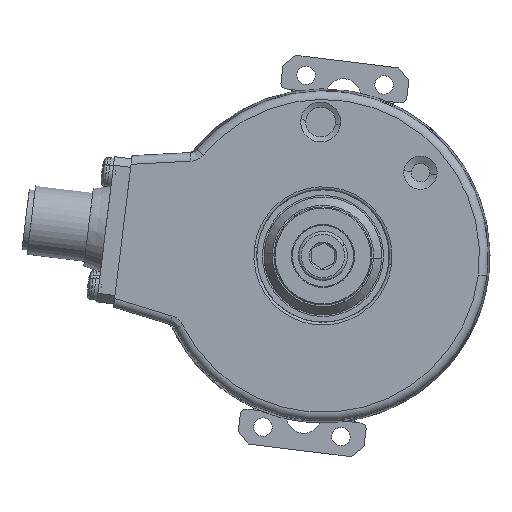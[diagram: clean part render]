
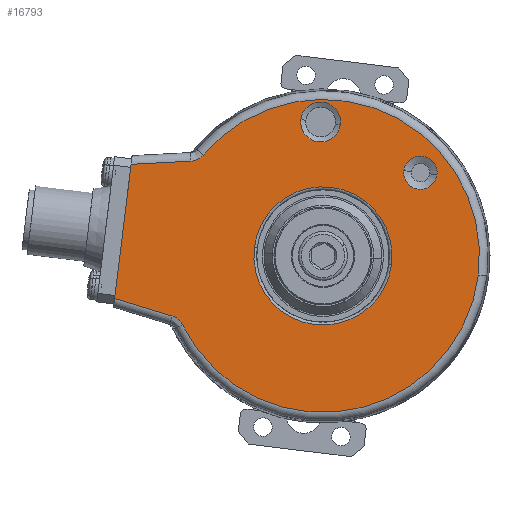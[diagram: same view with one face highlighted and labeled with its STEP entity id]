
A CAD part, left-side view. The second image highlights one B-rep face of the part: STEP entity #16793.
In plain terms, the highlighted planar face has unit normal (-1, 0, 0).
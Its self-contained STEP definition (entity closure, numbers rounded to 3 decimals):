
#978 = EDGE_LOOP ( 'NONE', ( #26322, #26323 ) ) ;
#979 = EDGE_LOOP ( 'NONE', ( #26320, #26321 ) ) ;
#1039 = EDGE_LOOP ( 'NONE', ( #26325, #26324 ) ) ;
#3807 = CARTESIAN_POINT ( 'NONE',  ( -19., -16.919, 14.45 ) ) ;
#3808 = DIRECTION ( 'NONE',  ( 1., 0., 0. ) ) ;
#3809 = DIRECTION ( 'NONE',  ( 0., -0.993, -0.122 ) ) ;
#3822 = CARTESIAN_POINT ( 'NONE',  ( -19., 0.406, 23.246 ) ) ;
#3823 = DIRECTION ( 'NONE',  ( 1., 0., 0. ) ) ;
#3824 = DIRECTION ( 'NONE',  ( 0., -0.993, -0.122 ) ) ;
#4479 = CIRCLE ( 'NONE', #35538, 2.899 ) ;
#4481 = CIRCLE ( 'NONE', #35539, 3.466 ) ;
#4482 = CIRCLE ( 'NONE', #35527, 27.173 ) ;
#4558 = CIRCLE ( 'NONE', #35440, 27.173 ) ;
#4599 = CIRCLE ( 'NONE', #28929, 12. ) ;
#4634 = CIRCLE ( 'NONE', #28985, 12. ) ;
#4887 = CIRCLE ( 'NONE', #32681, 3.466 ) ;
#4889 = CIRCLE ( 'NONE', #19913, 2.899 ) ;
#6196 = PLANE ( 'NONE',  #29726 ) ;
#6197 = CARTESIAN_POINT ( 'NONE',  ( -19., 0., 0. ) ) ;
#6198 = DIRECTION ( 'NONE',  ( 1., 0., 0. ) ) ;
#6199 = DIRECTION ( 'NONE',  ( 0., -0.993, -0.122 ) ) ;
#6343 = VERTEX_POINT ( 'NONE', #7092 ) ;
#6407 = VERTEX_POINT ( 'NONE', #7121 ) ;
#6458 = VERTEX_POINT ( 'NONE', #7172 ) ;
#6477 = VERTEX_POINT ( 'NONE', #7191 ) ;
#6505 = VERTEX_POINT ( 'NONE', #7219 ) ;
#6521 = VERTEX_POINT ( 'NONE', #7234 ) ;
#7092 = CARTESIAN_POINT ( 'NONE',  ( -19., -19.796, 14.097 ) ) ;
#7121 = CARTESIAN_POINT ( 'NONE',  ( -19., -14.042, 14.804 ) ) ;
#7172 = CARTESIAN_POINT ( 'NONE',  ( -19., 22.914, 16.45 ) ) ;
#7191 = CARTESIAN_POINT ( 'NONE',  ( -19., -3.034, 22.824 ) ) ;
#7219 = CARTESIAN_POINT ( 'NONE',  ( -19., 33.31, 15.905 ) ) ;
#7234 = CARTESIAN_POINT ( 'NONE',  ( -19., 36.168, -7.374 ) ) ;
#9978 = CARTESIAN_POINT ( 'NONE',  ( -19., -11.911, -1.462 ) ) ;
#10109 = CARTESIAN_POINT ( 'NONE',  ( -19., 11.911, 1.462 ) ) ;
#10122 = CARTESIAN_POINT ( 'NONE',  ( -19., 20.777, 17.512 ) ) ;
#10128 = CARTESIAN_POINT ( 'NONE',  ( -19., -26.97, -3.312 ) ) ;
#11537 = CARTESIAN_POINT ( 'NONE',  ( -19., 26.213, -10.418 ) ) ;
#11559 = CARTESIAN_POINT ( 'NONE',  ( -19., 3.846, 23.669 ) ) ;
#11639 = CARTESIAN_POINT ( 'NONE',  ( -19., 24.396, -11.966 ) ) ;
#16793 = ADVANCED_FACE ( 'NONE', ( #29722, #29729, #29732, #29735 ), #6196, .F. ) ;
#19913 = AXIS2_PLACEMENT_3D ( 'NONE', #3807, #3808, #3809 ) ;
#20214 = EDGE_LOOP ( 'NONE', ( #26319, #26317, #26318, #26316, #26315, #26314, #26313 ) ) ;
#21575 = VERTEX_POINT ( 'NONE', #11537 ) ;
#21610 = VERTEX_POINT ( 'NONE', #11559 ) ;
#21725 = VERTEX_POINT ( 'NONE', #11639 ) ;
#26313 = ORIENTED_EDGE ( 'NONE', *, *, #34878, .T. ) ;
#26314 = ORIENTED_EDGE ( 'NONE', *, *, #34986, .T. ) ;
#26315 = ORIENTED_EDGE ( 'NONE', *, *, #35042, .F. ) ;
#26316 = ORIENTED_EDGE ( 'NONE', *, *, #35044, .T. ) ;
#26317 = ORIENTED_EDGE ( 'NONE', *, *, #34992, .T. ) ;
#26318 = ORIENTED_EDGE ( 'NONE', *, *, #34988, .F. ) ;
#26319 = ORIENTED_EDGE ( 'NONE', *, *, #34815, .F. ) ;
#26320 = ORIENTED_EDGE ( 'NONE', *, *, #34748, .T. ) ;
#26321 = ORIENTED_EDGE ( 'NONE', *, *, #34817, .T. ) ;
#26322 = ORIENTED_EDGE ( 'NONE', *, *, #34242, .T. ) ;
#26323 = ORIENTED_EDGE ( 'NONE', *, *, #34989, .T. ) ;
#26324 = ORIENTED_EDGE ( 'NONE', *, *, #34991, .T. ) ;
#26325 = ORIENTED_EDGE ( 'NONE', *, *, #34237, .T. ) ;
#26965 = CARTESIAN_POINT ( 'NONE',  ( -19., 0., 0. ) ) ;
#26966 = DIRECTION ( 'NONE',  ( 1., 0., 0. ) ) ;
#26967 = DIRECTION ( 'NONE',  ( 0., -0.993, -0.122 ) ) ;
#27187 = CARTESIAN_POINT ( 'NONE',  ( -19., 22.914, 16.45 ) ) ;
#27188 = CARTESIAN_POINT ( 'NONE',  ( -19., 22.708, 16.461 ) ) ;
#27189 = CARTESIAN_POINT ( 'NONE',  ( -19., 22.503, 16.493 ) ) ;
#27190 = CARTESIAN_POINT ( 'NONE',  ( -19., 22.108, 16.597 ) ) ;
#27191 = CARTESIAN_POINT ( 'NONE',  ( -19., 21.917, 16.669 ) ) ;
#27192 = CARTESIAN_POINT ( 'NONE',  ( -19., 21.552, 16.851 ) ) ;
#27193 = CARTESIAN_POINT ( 'NONE',  ( -19., 21.376, 16.962 ) ) ;
#27194 = CARTESIAN_POINT ( 'NONE',  ( -19., 21.056, 17.213 ) ) ;
#27195 = CARTESIAN_POINT ( 'NONE',  ( -19., 20.91, 17.355 ) ) ;
#27196 = CARTESIAN_POINT ( 'NONE',  ( -19., 20.777, 17.512 ) ) ;
#27200 = CARTESIAN_POINT ( 'NONE',  ( -19., 0., 0. ) ) ;
#27201 = DIRECTION ( 'NONE',  ( 1., 0., 0. ) ) ;
#27202 = DIRECTION ( 'NONE',  ( 0., -0.993, -0.122 ) ) ;
#27400 = CARTESIAN_POINT ( 'NONE',  ( -19., 0., 0. ) ) ;
#27407 = DIRECTION ( 'NONE',  ( -1., 0., 0. ) ) ;
#27408 = DIRECTION ( 'NONE',  ( 0., -0.993, -0.122 ) ) ;
#27822 = CARTESIAN_POINT ( 'NONE',  ( -19., 0., 0. ) ) ;
#27823 = DIRECTION ( 'NONE',  ( -1., 0., 0. ) ) ;
#27824 = DIRECTION ( 'NONE',  ( 0., -0.993, -0.122 ) ) ;
#27825 = CARTESIAN_POINT ( 'NONE',  ( -19., 0.406, 23.246 ) ) ;
#27829 = LINE ( 'NONE', #27830, #35542 ) ;
#27830 = CARTESIAN_POINT ( 'NONE',  ( -19., 36.354, -8.886 ) ) ;
#27831 = DIRECTION ( 'NONE',  ( 0., -0.122, 0.993 ) ) ;
#27832 = DIRECTION ( 'NONE',  ( 1., 0., 0. ) ) ;
#27833 = DIRECTION ( 'NONE',  ( 0., -0.993, -0.122 ) ) ;
#27837 = CARTESIAN_POINT ( 'NONE',  ( -19., -16.919, 14.45 ) ) ;
#27838 = DIRECTION ( 'NONE',  ( 1., 0., 0. ) ) ;
#27839 = DIRECTION ( 'NONE',  ( 0., -0.993, -0.122 ) ) ;
#27841 = LINE ( 'NONE', #27842, #35546 ) ;
#27842 = CARTESIAN_POINT ( 'NONE',  ( -19., 33.046, 15.919 ) ) ;
#27843 = DIRECTION ( 'NONE',  ( 0., 0.999, -0.052 ) ) ;
#28170 = VERTEX_POINT ( 'NONE', #9978 ) ;
#28348 = VERTEX_POINT ( 'NONE', #10109 ) ;
#28363 = VERTEX_POINT ( 'NONE', #10122 ) ;
#28370 = VERTEX_POINT ( 'NONE', #10128 ) ;
#28929 = AXIS2_PLACEMENT_3D ( 'NONE', #27200, #27201, #27202 ) ;
#28985 = AXIS2_PLACEMENT_3D ( 'NONE', #26965, #26966, #26967 ) ;
#29722 = FACE_BOUND ( 'NONE', #1039, .T. ) ;
#29726 = AXIS2_PLACEMENT_3D ( 'NONE', #6197, #6198, #6199 ) ;
#29729 = FACE_BOUND ( 'NONE', #978, .T. ) ;
#29732 = FACE_BOUND ( 'NONE', #979, .T. ) ;
#29735 = FACE_OUTER_BOUND ( 'NONE', #20214, .T. ) ;
#30533 = B_SPLINE_CURVE_WITH_KNOTS ( 'NONE', 3,
 ( #31033, #31039, #31040, #31041, #31042, #31043, #31045, #31046, #31048, #31049 ),
 .UNSPECIFIED., .F., .F.,
 ( 4, 2, 2, 2, 4 ),
 ( 0., 0.001, 0.001, 0.002, 0.002 ),
 .UNSPECIFIED. ) ;
#30593 = B_SPLINE_CURVE_WITH_KNOTS ( 'NONE', 3,
 ( #27187, #27188, #27189, #27190, #27191, #27192, #27193, #27194, #27195, #27196 ),
 .UNSPECIFIED., .F., .F.,
 ( 4, 2, 2, 2, 4 ),
 ( 0., 0.001, 0.001, 0.002, 0.002 ),
 .UNSPECIFIED. ) ;
#31033 = CARTESIAN_POINT ( 'NONE',  ( -19., 24.396, -11.966 ) ) ;
#31039 = CARTESIAN_POINT ( 'NONE',  ( -19., 24.487, -11.781 ) ) ;
#31040 = CARTESIAN_POINT ( 'NONE',  ( -19., 24.597, -11.605 ) ) ;
#31041 = CARTESIAN_POINT ( 'NONE',  ( -19., 24.848, -11.282 ) ) ;
#31042 = CARTESIAN_POINT ( 'NONE',  ( -19., 24.989, -11.135 ) ) ;
#31043 = CARTESIAN_POINT ( 'NONE',  ( -19., 25.3, -10.87 ) ) ;
#31045 = CARTESIAN_POINT ( 'NONE',  ( -19., 25.471, -10.753 ) ) ;
#31046 = CARTESIAN_POINT ( 'NONE',  ( -19., 25.828, -10.557 ) ) ;
#31048 = CARTESIAN_POINT ( 'NONE',  ( -19., 26.016, -10.478 ) ) ;
#31049 = CARTESIAN_POINT ( 'NONE',  ( -19., 26.213, -10.418 ) ) ;
#31055 = LINE ( 'NONE', #31057, #35586 ) ;
#31057 = CARTESIAN_POINT ( 'NONE',  ( -19., 25.556, -10.618 ) ) ;
#31059 = DIRECTION ( 'NONE',  ( 0., -0.956, -0.292 ) ) ;
#32681 = AXIS2_PLACEMENT_3D ( 'NONE', #3822, #3823, #3824 ) ;
#34237 = EDGE_CURVE ( 'NONE', #6407, #6343, #4889, .T. ) ;
#34242 = EDGE_CURVE ( 'NONE', #21610, #6477, #4887, .T. ) ;
#34748 = EDGE_CURVE ( 'NONE', #28170, #28348, #4634, .T. ) ;
#34815 = EDGE_CURVE ( 'NONE', #6458, #28363, #30593, .T. ) ;
#34817 = EDGE_CURVE ( 'NONE', #28348, #28170, #4599, .T. ) ;
#34878 = EDGE_CURVE ( 'NONE', #28370, #28363, #4558, .T. ) ;
#34986 = EDGE_CURVE ( 'NONE', #21725, #28370, #4482, .T. ) ;
#34988 = EDGE_CURVE ( 'NONE', #6521, #6505, #27829, .T. ) ;
#34989 = EDGE_CURVE ( 'NONE', #6477, #21610, #4481, .T. ) ;
#34991 = EDGE_CURVE ( 'NONE', #6343, #6407, #4479, .T. ) ;
#34992 = EDGE_CURVE ( 'NONE', #6458, #6505, #27841, .T. ) ;
#35042 = EDGE_CURVE ( 'NONE', #21725, #21575, #30533, .T. ) ;
#35044 = EDGE_CURVE ( 'NONE', #6521, #21575, #31055, .T. ) ;
#35440 = AXIS2_PLACEMENT_3D ( 'NONE', #27400, #27407, #27408 ) ;
#35527 = AXIS2_PLACEMENT_3D ( 'NONE', #27822, #27823, #27824 ) ;
#35538 = AXIS2_PLACEMENT_3D ( 'NONE', #27837, #27838, #27839 ) ;
#35539 = AXIS2_PLACEMENT_3D ( 'NONE', #27825, #27832, #27833 ) ;
#35542 = VECTOR ( 'NONE', #27831, 1000. ) ;
#35546 = VECTOR ( 'NONE', #27843, 1000. ) ;
#35586 = VECTOR ( 'NONE', #31059, 1000. ) ;
